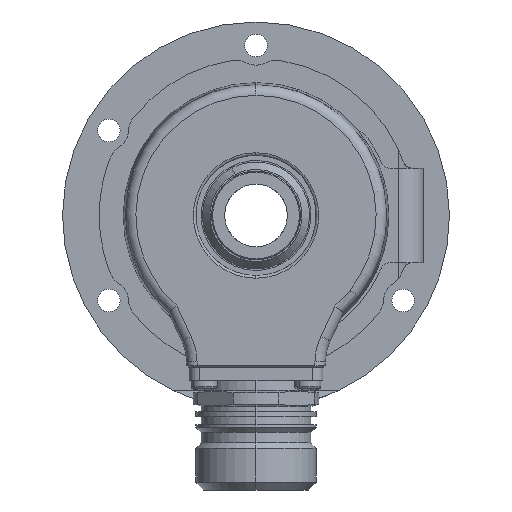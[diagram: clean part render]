
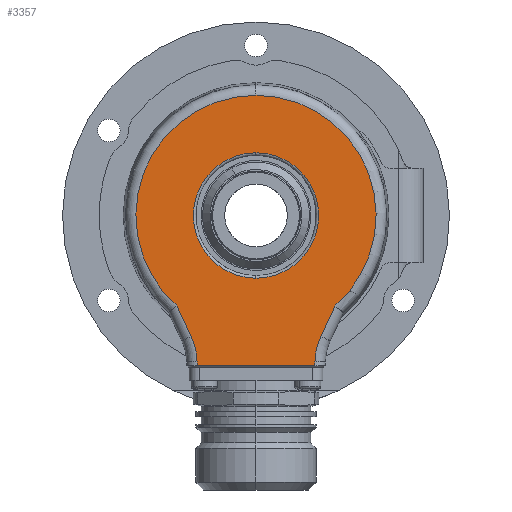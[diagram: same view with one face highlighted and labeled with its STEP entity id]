
A CAD part, left-side view. The second image highlights one B-rep face of the part: STEP entity #3357.
In plain terms, the highlighted planar face has unit normal (-1, 0, 0).
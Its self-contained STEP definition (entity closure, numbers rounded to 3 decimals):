
#3198 = VERTEX_POINT ( 'NONE', #18107 ) ;
#3199 = VERTEX_POINT ( 'NONE', #18091 ) ;
#3224 = VERTEX_POINT ( 'NONE', #18208 ) ;
#3231 = VERTEX_POINT ( 'NONE', #18180 ) ;
#3233 = EDGE_CURVE ( 'NONE', #3224, #3231, #18177, .T. ) ;
#3238 = EDGE_CURVE ( 'NONE', #3199, #3198, #18424, .T. ) ;
#3244 = EDGE_CURVE ( 'NONE', #3245, #3246, #18363, .T. ) ;
#3245 = VERTEX_POINT ( 'NONE', #18358 ) ;
#3246 = VERTEX_POINT ( 'NONE', #18357 ) ;
#3299 = VERTEX_POINT ( 'NONE', #18244 ) ;
#3356 = EDGE_CURVE ( 'NONE', #3198, #3199, #18598, .T. ) ;
#3357 = ADVANCED_FACE ( 'NONE', ( #18594, #18593 ), #18578, .F. ) ;
#3358 = EDGE_LOOP ( 'NONE', ( #3359, #3360 ) ) ;
#3359 = ORIENTED_EDGE ( 'NONE', *, *, #3238, .T. ) ;
#3360 = ORIENTED_EDGE ( 'NONE', *, *, #3356, .T. ) ;
#3361 = EDGE_LOOP ( 'NONE', ( #3362, #3363, #3364, #3371, #3372, #3695, #3696, #3697, #3698 ) ) ;
#3362 = ORIENTED_EDGE ( 'NONE', *, *, #3747, .T. ) ;
#3363 = ORIENTED_EDGE ( 'NONE', *, *, #3386, .T. ) ;
#3364 = ORIENTED_EDGE ( 'NONE', *, *, #3370, .T. ) ;
#3370 = EDGE_CURVE ( 'NONE', #3420, #3224, #18698, .T. ) ;
#3371 = ORIENTED_EDGE ( 'NONE', *, *, #3233, .T. ) ;
#3372 = ORIENTED_EDGE ( 'NONE', *, *, #3509, .T. ) ;
#3386 = EDGE_CURVE ( 'NONE', #3411, #3420, #18533, .T. ) ;
#3411 = VERTEX_POINT ( 'NONE', #18861 ) ;
#3420 = VERTEX_POINT ( 'NONE', #18763 ) ;
#3443 = EDGE_CURVE ( 'NONE', #3507, #3245, #18521, .T. ) ;
#3452 = VERTEX_POINT ( 'NONE', #19023 ) ;
#3454 = EDGE_CURVE ( 'NONE', #3246, #3452, #18997, .T. ) ;
#3480 = EDGE_CURVE ( 'NONE', #3452, #3299, #19089, .T. ) ;
#3507 = VERTEX_POINT ( 'NONE', #19172 ) ;
#3509 = EDGE_CURVE ( 'NONE', #3231, #3507, #19135, .T. ) ;
#3695 = ORIENTED_EDGE ( 'NONE', *, *, #3443, .T. ) ;
#3696 = ORIENTED_EDGE ( 'NONE', *, *, #3244, .T. ) ;
#3697 = ORIENTED_EDGE ( 'NONE', *, *, #3454, .T. ) ;
#3698 = ORIENTED_EDGE ( 'NONE', *, *, #3480, .T. ) ;
#3747 = EDGE_CURVE ( 'NONE', #3299, #3411, #19988, .T. ) ;
#18014 = AXIS2_PLACEMENT_3D ( 'NONE', #18159, #18227, #18229 ) ;
#18091 = CARTESIAN_POINT ( 'NONE',  ( -21., 0., 12. ) ) ;
#18107 = CARTESIAN_POINT ( 'NONE',  ( -21., 0., -12. ) ) ;
#18159 = CARTESIAN_POINT ( 'NONE',  ( -21., -23.266, -28.183 ) ) ;
#18177 = CIRCLE ( 'NONE', #18014, 12. ) ;
#18180 = CARTESIAN_POINT ( 'NONE',  ( -21., -12.39, -23.112 ) ) ;
#18208 = CARTESIAN_POINT ( 'NONE',  ( -21., -11.268, -27.974 ) ) ;
#18227 = DIRECTION ( 'NONE',  ( 1., 0., 0. ) ) ;
#18229 = DIRECTION ( 'NONE',  ( 0., 0., 1. ) ) ;
#18244 = CARTESIAN_POINT ( 'NONE',  ( -21., 11.268, -27.974 ) ) ;
#18307 = CARTESIAN_POINT ( 'NONE',  ( -21., 0., 0. ) ) ;
#18357 = CARTESIAN_POINT ( 'NONE',  ( -21., 15.091, -17.32 ) ) ;
#18358 = CARTESIAN_POINT ( 'NONE',  ( -21., 0., 22.972 ) ) ;
#18359 = DIRECTION ( 'NONE',  ( 0., 0., 1. ) ) ;
#18360 = DIRECTION ( 'NONE',  ( -1., 0., 0. ) ) ;
#18361 = CARTESIAN_POINT ( 'NONE',  ( -21., 0., 0. ) ) ;
#18362 = AXIS2_PLACEMENT_3D ( 'NONE', #18361, #18360, #18359 ) ;
#18363 = CIRCLE ( 'NONE', #18362, 22.972 ) ;
#18421 = DIRECTION ( 'NONE',  ( 0., 0., 1. ) ) ;
#18422 = DIRECTION ( 'NONE',  ( 1., 0., 0. ) ) ;
#18423 = AXIS2_PLACEMENT_3D ( 'NONE', #18307, #18422, #18421 ) ;
#18424 = CIRCLE ( 'NONE', #18423, 12. ) ;
#18511 = DIRECTION ( 'NONE',  ( 0., -1., 0. ) ) ;
#18512 = CARTESIAN_POINT ( 'NONE',  ( -21., -11.25, -28.695 ) ) ;
#18515 = VECTOR ( 'NONE', #18511, 1000. ) ;
#18519 = CARTESIAN_POINT ( 'NONE',  ( -21., 0., 0. ) ) ;
#18520 = AXIS2_PLACEMENT_3D ( 'NONE', #18519, #18877, #18876 ) ;
#18521 = CIRCLE ( 'NONE', #18520, 22.972 ) ;
#18533 = LINE ( 'NONE', #18512, #18515 ) ;
#18575 = DIRECTION ( 'NONE',  ( 1., 0., 0. ) ) ;
#18576 = CARTESIAN_POINT ( 'NONE',  ( -21., 0., 0. ) ) ;
#18577 = AXIS2_PLACEMENT_3D ( 'NONE', #18576, #18575, #18703 ) ;
#18578 = PLANE ( 'NONE',  #18577 ) ;
#18593 = FACE_OUTER_BOUND ( 'NONE', #3361, .T. ) ;
#18594 = FACE_BOUND ( 'NONE', #3358, .T. ) ;
#18595 = DIRECTION ( 'NONE',  ( 0., 0., 1. ) ) ;
#18596 = DIRECTION ( 'NONE',  ( 1., 0., 0. ) ) ;
#18597 = AXIS2_PLACEMENT_3D ( 'NONE', #18637, #18596, #18595 ) ;
#18598 = CIRCLE ( 'NONE', #18597, 12. ) ;
#18637 = CARTESIAN_POINT ( 'NONE',  ( -21., 0., 0. ) ) ;
#18694 = DIRECTION ( 'NONE',  ( 0., -0.017, 1. ) ) ;
#18695 = VECTOR ( 'NONE', #18694, 1000. ) ;
#18696 = CARTESIAN_POINT ( 'NONE',  ( -21., -11.752, -0.205 ) ) ;
#18698 = LINE ( 'NONE', #18696, #18695 ) ;
#18703 = DIRECTION ( 'NONE',  ( 0., 0., 1. ) ) ;
#18763 = CARTESIAN_POINT ( 'NONE',  ( -21., -11.255, -28.695 ) ) ;
#18861 = CARTESIAN_POINT ( 'NONE',  ( -21., 11.255, -28.695 ) ) ;
#18876 = DIRECTION ( 'NONE',  ( 0., 0., 1. ) ) ;
#18877 = DIRECTION ( 'NONE',  ( -1., 0., 0. ) ) ;
#18994 = DIRECTION ( 'NONE',  ( 0., -0.423, -0.906 ) ) ;
#18995 = VECTOR ( 'NONE', #18994, 1000. ) ;
#18996 = CARTESIAN_POINT ( 'NONE',  ( -21., 12.39, -23.112 ) ) ;
#18997 = LINE ( 'NONE', #18996, #18995 ) ;
#19023 = CARTESIAN_POINT ( 'NONE',  ( -21., 12.39, -23.112 ) ) ;
#19085 = DIRECTION ( 'NONE',  ( 0., 0., 1. ) ) ;
#19086 = DIRECTION ( 'NONE',  ( 1., 0., 0. ) ) ;
#19087 = CARTESIAN_POINT ( 'NONE',  ( -21., 23.266, -28.183 ) ) ;
#19088 = AXIS2_PLACEMENT_3D ( 'NONE', #19087, #19086, #19085 ) ;
#19089 = CIRCLE ( 'NONE', #19088, 12. ) ;
#19134 = CARTESIAN_POINT ( 'NONE',  ( -21., -14.953, -17.615 ) ) ;
#19135 = LINE ( 'NONE', #19134, #19152 ) ;
#19151 = DIRECTION ( 'NONE',  ( 0., -0.423, 0.906 ) ) ;
#19152 = VECTOR ( 'NONE', #19151, 1000. ) ;
#19172 = CARTESIAN_POINT ( 'NONE',  ( -21., -15.091, -17.32 ) ) ;
#19985 = DIRECTION ( 'NONE',  ( 0., -0.017, -1. ) ) ;
#19986 = VECTOR ( 'NONE', #19985, 1000. ) ;
#19987 = CARTESIAN_POINT ( 'NONE',  ( -21., 11.752, -0.205 ) ) ;
#19988 = LINE ( 'NONE', #19987, #19986 ) ;
